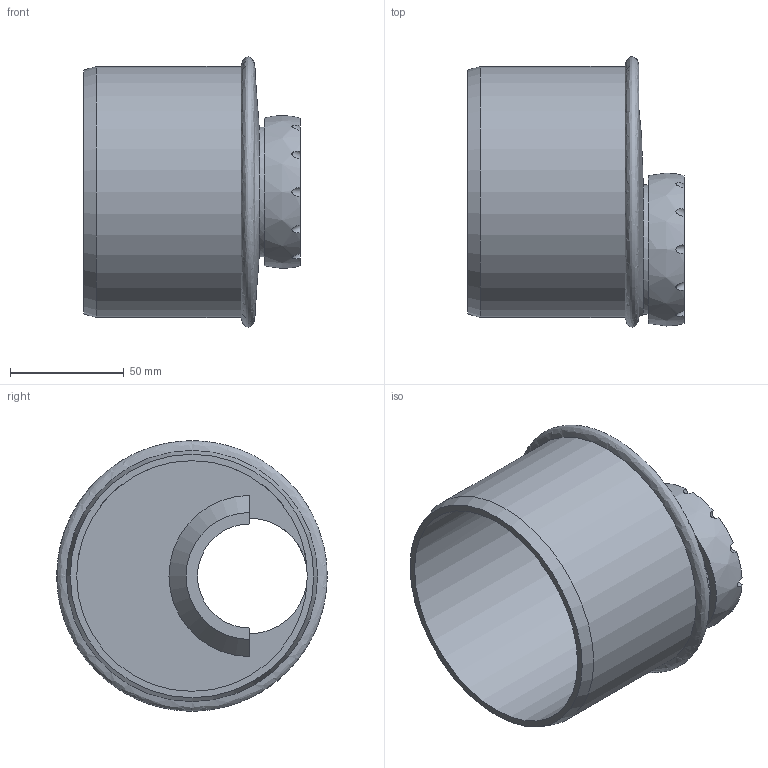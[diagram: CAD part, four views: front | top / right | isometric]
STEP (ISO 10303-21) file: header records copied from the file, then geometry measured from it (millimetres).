
FILE_DESCRIPTION(/* description */ (''),/* implementation_level */ '2;1');
FILE_NAME(/* name */ 'H:\Geberit-Teile\Export\Reduktion_ART\stp\393572.stp',/* time_stamp */ '2017-02-28T08:31:47+01:00',/* author */ ('seihe2'),/* organization */ (''),/* preprocessor_version */ 'ST-DEVELOPER v15.2',/* originating_system */ 'Autodesk Inventor 2014',/* authorisation */ '');
FILE_SCHEMA (('AUTOMOTIVE_DESIGN { 1 0 10303 214 3 1 1 }'));
Length unit declared in the file: millimetre
Products named in the file (1): 393572
Bounding box: 95 x 118.6 x 118.6 mm (x, y, z)
Volume: 170818.6 mm3; surface area: 83629.9 mm2
Topology: 1 solids, 1 shells, 35 faces, 89 edges, 59 vertices
Faces by surface type: cylinder 20, plane 10, bspline 3, cone 2
Full cylindrical faces by diameter (mm): 50.7 x1, 51 x1, 57 x1, 60.1 x1, 101.2 x1, 110.2 x1
Entity records: 1573 total; most frequent: CARTESIAN_POINT 686, DIRECTION 182, ORIENTED_EDGE 160, AXIS2_PLACEMENT_3D 84, EDGE_CURVE 80, VERTEX_POINT 57, EDGE_LOOP 47, CIRCLE 38
